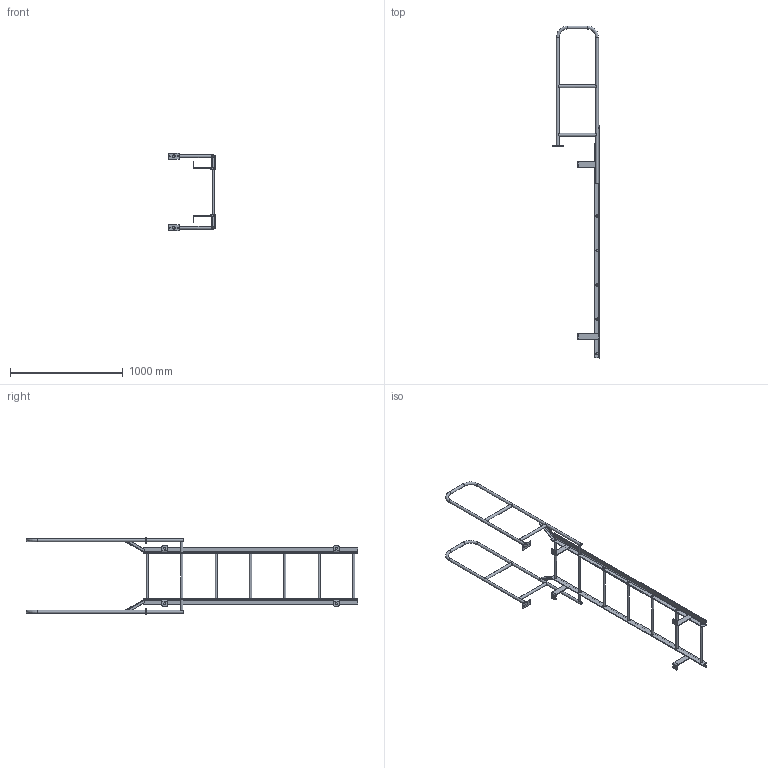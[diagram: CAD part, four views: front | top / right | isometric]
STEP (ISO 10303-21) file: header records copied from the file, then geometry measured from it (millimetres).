
FILE_DESCRIPTION(/* description */ (''),/* implementation_level */ '2;1');
FILE_NAME(/* name */ 'P:\MIKEL & KAREN\3570225 F7W SIMPLIFED PART .stp',/* time_stamp */ '2018-07-02T15:44:29-04:00',/* author */ ('stephanie'),/* organization */ (''),/* preprocessor_version */ 'ST-DEVELOPER v16.1',/* originating_system */ 'Autodesk Inventor 2016',/* authorisation */ '');
FILE_SCHEMA (('AUTOMOTIVE_DESIGN { 1 0 10303 214 3 1 1 }'));
Length unit declared in the file: centimetre
Products named in the file (1): 3570225 F7W SIMPLIFED PART 
Bounding box: 425.58 x 2943.22 x 685.8 mm (x, y, z)
Volume: 4475015 mm3; surface area: 2112070.5 mm2
Topology: 15 solids, 15 shells, 229 faces, 587 edges, 382 vertices
Faces by surface type: plane 119, cylinder 102, torus 8
Full cylindrical faces by diameter (mm): 10.319 x4, 14.287 x4, 19.05 x7, 22.098 x10, 22.225 x14, 25.4 x10
Entity records: 7217 total; most frequent: CARTESIAN_POINT 1496, DIRECTION 1166, ORIENTED_EDGE 1024, EDGE_CURVE 506, AXIS2_PLACEMENT_3D 446, VERTEX_POINT 360, EDGE_LOOP 338, LINE 274
